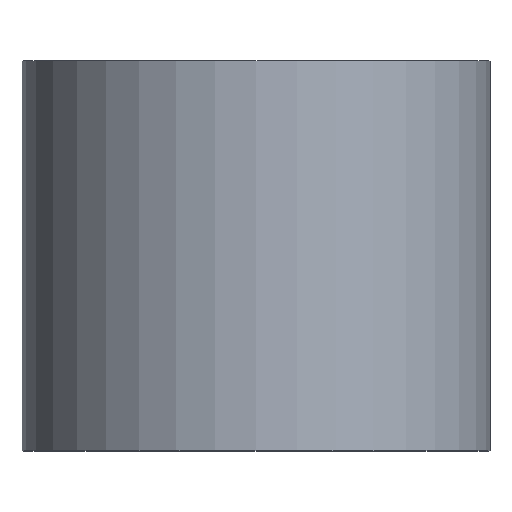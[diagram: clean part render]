
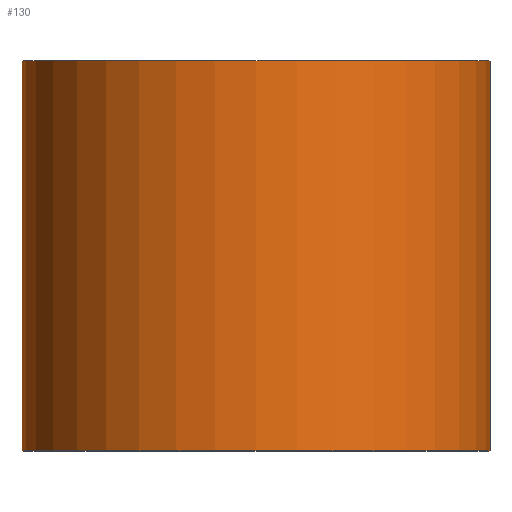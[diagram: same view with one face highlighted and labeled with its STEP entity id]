
A CAD part, top view. The second image highlights one B-rep face of the part: STEP entity #130.
In plain terms, the highlighted cylindrical face has radius 6 mm (diameter 12 mm), a partial arc.
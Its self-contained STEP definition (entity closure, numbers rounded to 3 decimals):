
#11 = LINE ( 'NONE', #158, #291 ) ;
#28 = LINE ( 'NONE', #284, #171 ) ;
#41 = EDGE_CURVE ( 'NONE', #120, #230, #28, .T. ) ;
#69 = AXIS2_PLACEMENT_3D ( 'NONE', #223, #245, #84 ) ;
#77 = DIRECTION ( 'NONE',  ( -1., 0., 0. ) ) ;
#78 = CARTESIAN_POINT ( 'NONE',  ( 6., 0., 0. ) ) ;
#84 = DIRECTION ( 'NONE',  ( -1., 0., 0. ) ) ;
#86 = CARTESIAN_POINT ( 'NONE',  ( 6., 10., 0. ) ) ;
#101 = ORIENTED_EDGE ( 'NONE', *, *, #191, .T. ) ;
#105 = DIRECTION ( 'NONE',  ( -1., 0., 0. ) ) ;
#108 = CARTESIAN_POINT ( 'NONE',  ( 0., 0., 0. ) ) ;
#114 = ORIENTED_EDGE ( 'NONE', *, *, #182, .F. ) ;
#120 = VERTEX_POINT ( 'NONE', #78 ) ;
#130 = ADVANCED_FACE ( 'NONE', ( #296 ), #159, .T. ) ;
#144 = VERTEX_POINT ( 'NONE', #261 ) ;
#158 = CARTESIAN_POINT ( 'NONE',  ( -6., 0., 0. ) ) ;
#159 = CYLINDRICAL_SURFACE ( 'NONE', #242, 6. ) ;
#164 = CARTESIAN_POINT ( 'NONE',  ( -6., 10., 0. ) ) ;
#171 = VECTOR ( 'NONE', #200, 1000. ) ;
#174 = CIRCLE ( 'NONE', #69, 6. ) ;
#182 = EDGE_CURVE ( 'NONE', #144, #208, #11, .T. ) ;
#185 = ORIENTED_EDGE ( 'NONE', *, *, #41, .T. ) ;
#191 = EDGE_CURVE ( 'NONE', #144, #120, #228, .T. ) ;
#198 = DIRECTION ( 'NONE',  ( 0., 1., 0. ) ) ;
#200 = DIRECTION ( 'NONE',  ( 0., 1., 0. ) ) ;
#208 = VERTEX_POINT ( 'NONE', #164 ) ;
#209 = EDGE_CURVE ( 'NONE', #208, #230, #174, .T. ) ;
#213 = DIRECTION ( 'NONE',  ( 0., 1., 0. ) ) ;
#215 = DIRECTION ( 'NONE',  ( 0., 1., 0. ) ) ;
#223 = CARTESIAN_POINT ( 'NONE',  ( 0., 10., 0. ) ) ;
#227 = EDGE_LOOP ( 'NONE', ( #101, #185, #251, #114 ) ) ;
#228 = CIRCLE ( 'NONE', #273, 6. ) ;
#230 = VERTEX_POINT ( 'NONE', #86 ) ;
#240 = CARTESIAN_POINT ( 'NONE',  ( 0., 0., 0. ) ) ;
#242 = AXIS2_PLACEMENT_3D ( 'NONE', #240, #213, #105 ) ;
#245 = DIRECTION ( 'NONE',  ( 0., 1., 0. ) ) ;
#251 = ORIENTED_EDGE ( 'NONE', *, *, #209, .F. ) ;
#261 = CARTESIAN_POINT ( 'NONE',  ( -6., 0., 0. ) ) ;
#273 = AXIS2_PLACEMENT_3D ( 'NONE', #108, #215, #77 ) ;
#284 = CARTESIAN_POINT ( 'NONE',  ( 6., 0., 0. ) ) ;
#291 = VECTOR ( 'NONE', #198, 1000. ) ;
#296 = FACE_OUTER_BOUND ( 'NONE', #227, .T. ) ;
